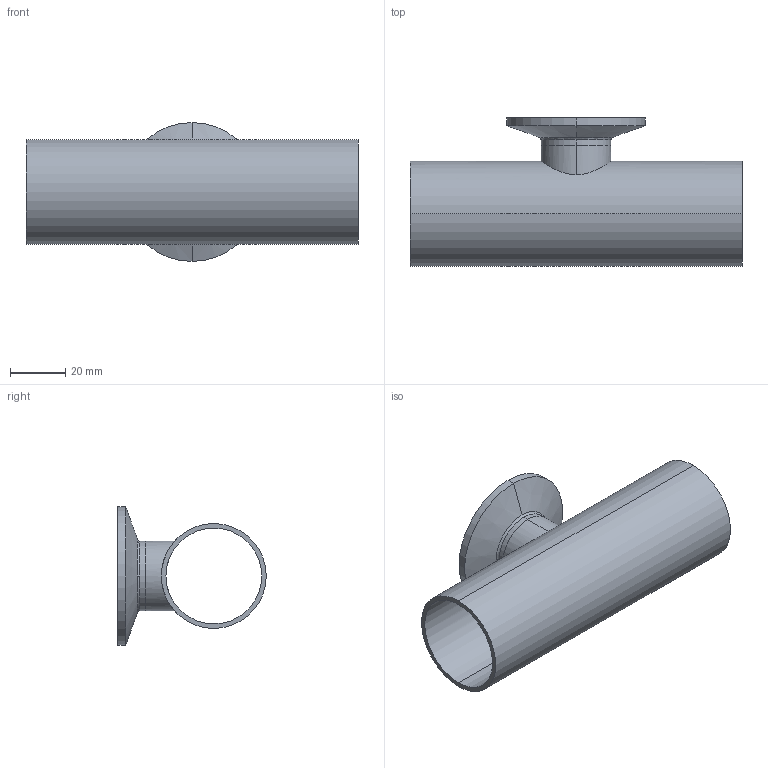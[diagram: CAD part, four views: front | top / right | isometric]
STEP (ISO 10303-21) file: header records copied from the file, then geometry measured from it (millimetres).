
FILE_DESCRIPTION (( 'STEP AP214' ), '1' );
FILE_NAME ('TE7RWWCS6L1.5x1.0-...STEP', '2016-05-23T11:06:23', ( 'eran' ), ( '' ), 'SwSTEP 2.0', 'SolidWorks 2016', '' );
FILE_SCHEMA (( 'AUTOMOTIVE_DESIGN' ));
Length unit declared in the file: millimetre
Products named in the file (1): TE7RWWCS6L1.5x1.0-..
Bounding box: 120.6 x 53.95 x 50.39 mm (x, y, z)
Volume: 31392.2 mm3; surface area: 33205.3 mm2
Topology: 2 solids, 2 shells, 36 faces, 88 edges, 58 vertices
Faces by surface type: cylinder 14, bspline 10, plane 6, cone 6
Entity records: 1837 total; most frequent: CARTESIAN_POINT 933, DIRECTION 190, ORIENTED_EDGE 176, EDGE_CURVE 88, AXIS2_PLACEMENT_3D 85, CIRCLE 58, VERTEX_POINT 58, EDGE_LOOP 44
